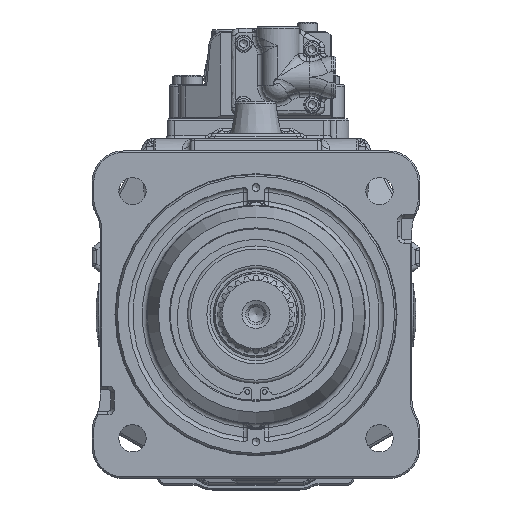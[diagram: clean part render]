
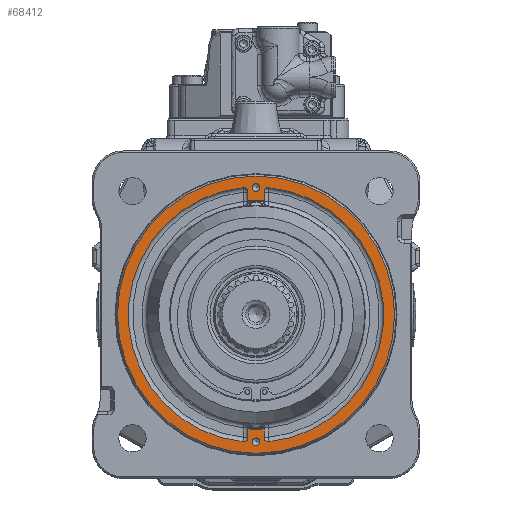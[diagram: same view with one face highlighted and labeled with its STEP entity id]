
A CAD part, top view. The second image highlights one B-rep face of the part: STEP entity #68412.
In plain terms, the highlighted planar face has unit normal (0, 0, 1).
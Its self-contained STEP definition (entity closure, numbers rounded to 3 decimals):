
#2737=FACE_BOUND('',#14371,.T.);
#2738=FACE_BOUND('',#14372,.T.);
#2739=FACE_BOUND('',#14373,.T.);
#10212=FACE_OUTER_BOUND('',#14370,.T.);
#14370=EDGE_LOOP('',(#57917));
#14371=EDGE_LOOP('',(#57918));
#14372=EDGE_LOOP('',(#57919));
#14373=EDGE_LOOP('',(#57920,#57921,#57922,#57923,#57924,#57925,#57926,#57927,
#57928,#57929,#57930,#57931));
#17536=CIRCLE('',#73888,2.459);
#17538=CIRCLE('',#73892,2.459);
#17801=CIRCLE('',#74435,73.4);
#17803=CIRCLE('',#74438,88.845);
#17804=CIRCLE('',#74439,2.862);
#17805=CIRCLE('',#74440,81.862);
#17806=CIRCLE('',#74441,2.862);
#17807=CIRCLE('',#74442,73.4);
#17808=CIRCLE('',#74443,2.862);
#17809=CIRCLE('',#74444,81.862);
#17810=CIRCLE('',#74445,2.862);
#22429=LINE('',#124438,#27312);
#22430=LINE('',#124446,#27313);
#22431=LINE('',#124450,#27314);
#22432=LINE('',#124457,#27315);
#27312=VECTOR('',#89717,5.374);
#27313=VECTOR('',#89724,5.374);
#27314=VECTOR('',#89727,5.374);
#27315=VECTOR('',#89734,5.374);
#32394=VERTEX_POINT('',#122052);
#32397=VERTEX_POINT('',#122061);
#32894=VERTEX_POINT('',#124373);
#32895=VERTEX_POINT('',#124402);
#32897=VERTEX_POINT('',#124435);
#32898=VERTEX_POINT('',#124437);
#32899=VERTEX_POINT('',#124439);
#32900=VERTEX_POINT('',#124441);
#32901=VERTEX_POINT('',#124443);
#32902=VERTEX_POINT('',#124445);
#32903=VERTEX_POINT('',#124447);
#32904=VERTEX_POINT('',#124449);
#32905=VERTEX_POINT('',#124451);
#32906=VERTEX_POINT('',#124453);
#32907=VERTEX_POINT('',#124455);
#40800=EDGE_CURVE('',#32394,#32394,#17536,.T.);
#40804=EDGE_CURVE('',#32397,#32397,#17538,.T.);
#41493=EDGE_CURVE('',#32894,#32895,#17801,.T.);
#41496=EDGE_CURVE('',#32897,#32897,#17803,.T.);
#41497=EDGE_CURVE('',#32898,#32894,#22429,.T.);
#41498=EDGE_CURVE('',#32899,#32898,#17804,.T.);
#41499=EDGE_CURVE('',#32900,#32899,#17805,.T.);
#41500=EDGE_CURVE('',#32901,#32900,#17806,.T.);
#41501=EDGE_CURVE('',#32902,#32901,#22430,.T.);
#41502=EDGE_CURVE('',#32903,#32902,#17807,.T.);
#41503=EDGE_CURVE('',#32904,#32903,#22431,.T.);
#41504=EDGE_CURVE('',#32905,#32904,#17808,.T.);
#41505=EDGE_CURVE('',#32906,#32905,#17809,.T.);
#41506=EDGE_CURVE('',#32907,#32906,#17810,.T.);
#41507=EDGE_CURVE('',#32895,#32907,#22432,.T.);
#57917=ORIENTED_EDGE('',*,*,#41496,.T.);
#57918=ORIENTED_EDGE('',*,*,#40800,.T.);
#57919=ORIENTED_EDGE('',*,*,#40804,.T.);
#57920=ORIENTED_EDGE('',*,*,#41493,.F.);
#57921=ORIENTED_EDGE('',*,*,#41497,.F.);
#57922=ORIENTED_EDGE('',*,*,#41498,.F.);
#57923=ORIENTED_EDGE('',*,*,#41499,.F.);
#57924=ORIENTED_EDGE('',*,*,#41500,.F.);
#57925=ORIENTED_EDGE('',*,*,#41501,.F.);
#57926=ORIENTED_EDGE('',*,*,#41502,.F.);
#57927=ORIENTED_EDGE('',*,*,#41503,.F.);
#57928=ORIENTED_EDGE('',*,*,#41504,.F.);
#57929=ORIENTED_EDGE('',*,*,#41505,.F.);
#57930=ORIENTED_EDGE('',*,*,#41506,.F.);
#57931=ORIENTED_EDGE('',*,*,#41507,.F.);
#65349=PLANE('',#74437);
#68412=ADVANCED_FACE('',(#10212,#2737,#2738,#2739),#65349,.F.);
#73888=AXIS2_PLACEMENT_3D('',#122054,#88354,#88355);
#73892=AXIS2_PLACEMENT_3D('',#122063,#88364,#88365);
#74435=AXIS2_PLACEMENT_3D('',#124403,#89709,#89710);
#74437=AXIS2_PLACEMENT_3D('',#124434,#89713,#89714);
#74438=AXIS2_PLACEMENT_3D('',#124436,#89715,#89716);
#74439=AXIS2_PLACEMENT_3D('',#124440,#89718,#89719);
#74440=AXIS2_PLACEMENT_3D('',#124442,#89720,#89721);
#74441=AXIS2_PLACEMENT_3D('',#124444,#89722,#89723);
#74442=AXIS2_PLACEMENT_3D('',#124448,#89725,#89726);
#74443=AXIS2_PLACEMENT_3D('',#124452,#89728,#89729);
#74444=AXIS2_PLACEMENT_3D('',#124454,#89730,#89731);
#74445=AXIS2_PLACEMENT_3D('',#124456,#89732,#89733);
#88354=DIRECTION('center_axis',(0.,0.,-1.));
#88355=DIRECTION('ref_axis',(1.,0.,0.));
#88364=DIRECTION('center_axis',(0.,0.,-1.));
#88365=DIRECTION('ref_axis',(1.,0.,0.));
#89709=DIRECTION('center_axis',(0.,0.,1.));
#89710=DIRECTION('ref_axis',(0.,-1.,0.));
#89713=DIRECTION('center_axis',(0.,0.,-1.));
#89714=DIRECTION('ref_axis',(0.,1.,0.));
#89715=DIRECTION('center_axis',(0.,0.,1.));
#89716=DIRECTION('ref_axis',(0.,1.,0.));
#89717=DIRECTION('',(0.,1.,0.));
#89718=DIRECTION('center_axis',(0.,0.,1.));
#89719=DIRECTION('ref_axis',(0.,-1.,0.));
#89720=DIRECTION('center_axis',(0.,0.,1.));
#89721=DIRECTION('ref_axis',(0.,-1.,0.));
#89722=DIRECTION('center_axis',(0.,0.,1.));
#89723=DIRECTION('ref_axis',(0.,-1.,0.));
#89724=DIRECTION('',(0.,1.,0.));
#89725=DIRECTION('center_axis',(0.,0.,1.));
#89726=DIRECTION('ref_axis',(0.,1.,0.));
#89727=DIRECTION('',(0.,-1.,0.));
#89728=DIRECTION('center_axis',(0.,0.,1.));
#89729=DIRECTION('ref_axis',(0.,-1.,0.));
#89730=DIRECTION('center_axis',(0.,0.,1.));
#89731=DIRECTION('ref_axis',(0.,-1.,0.));
#89732=DIRECTION('center_axis',(0.,0.,1.));
#89733=DIRECTION('ref_axis',(0.,-1.,0.));
#89734=DIRECTION('',(0.,-1.,0.));
#122052=CARTESIAN_POINT('',(-2.459,-81.5,199.1));
#122054=CARTESIAN_POINT('Origin',(0.,-81.5,199.1));
#122061=CARTESIAN_POINT('',(-2.459,81.5,199.1));
#122063=CARTESIAN_POINT('Origin',(0.,81.5,199.1));
#124373=CARTESIAN_POINT('',(-5.138,-73.22,199.1));
#124402=CARTESIAN_POINT('',(5.138,-73.22,199.1));
#124403=CARTESIAN_POINT('Origin',(0.,0.,199.1));
#124434=CARTESIAN_POINT('Origin',(0.,80.923,199.1));
#124435=CARTESIAN_POINT('',(0.,-88.845,199.1));
#124436=CARTESIAN_POINT('Origin',(0.,0.,199.1));
#124437=CARTESIAN_POINT('',(-5.138,-78.594,199.1));
#124438=CARTESIAN_POINT('',(-5.138,-78.594,199.1));
#124439=CARTESIAN_POINT('',(-8.29,-81.441,199.1));
#124440=CARTESIAN_POINT('Origin',(-8.,-78.594,199.1));
#124441=CARTESIAN_POINT('',(-8.29,81.441,199.1));
#124442=CARTESIAN_POINT('Origin',(0.,0.,199.1));
#124443=CARTESIAN_POINT('',(-5.138,78.594,199.1));
#124444=CARTESIAN_POINT('Origin',(-8.,78.594,199.1));
#124445=CARTESIAN_POINT('',(-5.138,73.22,199.1));
#124446=CARTESIAN_POINT('',(-5.138,73.22,199.1));
#124447=CARTESIAN_POINT('',(5.138,73.22,199.1));
#124448=CARTESIAN_POINT('Origin',(0.,0.,199.1));
#124449=CARTESIAN_POINT('',(5.138,78.594,199.1));
#124450=CARTESIAN_POINT('',(5.138,78.594,199.1));
#124451=CARTESIAN_POINT('',(8.29,81.441,199.1));
#124452=CARTESIAN_POINT('Origin',(8.,78.594,199.1));
#124453=CARTESIAN_POINT('',(8.29,-81.441,199.1));
#124454=CARTESIAN_POINT('Origin',(0.,0.,199.1));
#124455=CARTESIAN_POINT('',(5.138,-78.594,199.1));
#124456=CARTESIAN_POINT('Origin',(8.,-78.594,199.1));
#124457=CARTESIAN_POINT('',(5.138,-73.22,199.1));
